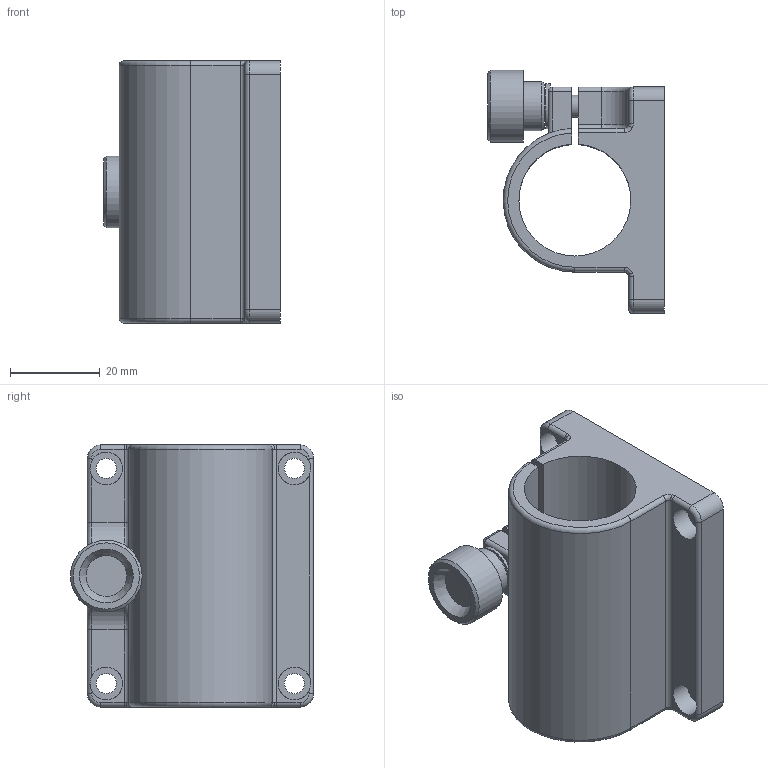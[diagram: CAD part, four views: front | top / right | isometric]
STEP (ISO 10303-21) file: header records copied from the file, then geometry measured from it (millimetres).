
FILE_DESCRIPTION(/* description */ (''),/* implementation_level */ '2;1');
FILE_NAME(/* name */ 'S:\Bureau-Technique\Dispositif\MA 567-58.stp',/* time_stamp */ '2013-06-12T10:12:05+02:00',/* author */ ('ms'),/* organization */ ('Marcel Aubert'),/* preprocessor_version */ 'ST-DEVELOPER v15.2',/* originating_system */ 'Autodesk Inventor 2014',/* authorisation */ '');
FILE_SCHEMA (('AUTOMOTIVE_DESIGN { 1 0 10303 214 3 1 1 }'));
Length unit declared in the file: millimetre
Products named in the file (1): Pièce1
Bounding box: 39.5 x 54.25 x 58.5 mm (x, y, z)
Volume: 35691.9 mm3; surface area: 18421.3 mm2
Topology: 1 solids, 1 shells, 109 faces, 267 edges, 165 vertices
Faces by surface type: cylinder 50, plane 36, torus 14, bspline 4, cone 3, sphere 2
Full cylindrical faces by diameter (mm): 4.134 x1, 4.5 x4, 5 x1, 5.3 x2, 7 x1, 7.3 x4, 10 x1, 11 x1, 13 x1, 16 x1
Entity records: 3422 total; most frequent: CARTESIAN_POINT 726, DIRECTION 566, ORIENTED_EDGE 478, EDGE_CURVE 239, AXIS2_PLACEMENT_3D 237, VERTEX_POINT 159, EDGE_LOOP 146, CIRCLE 131
